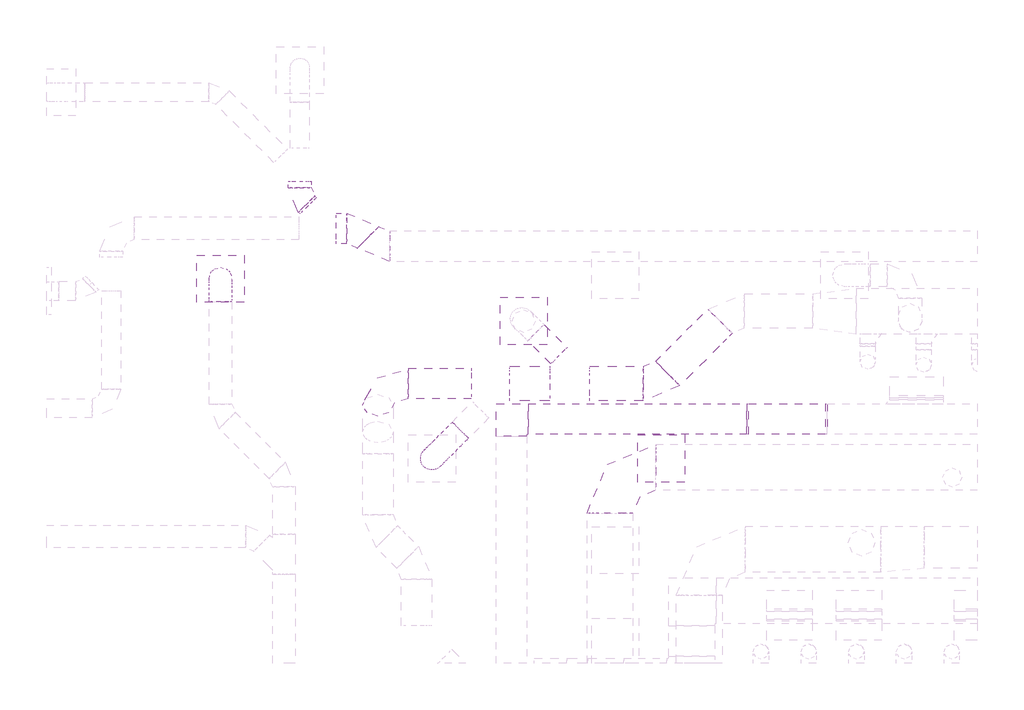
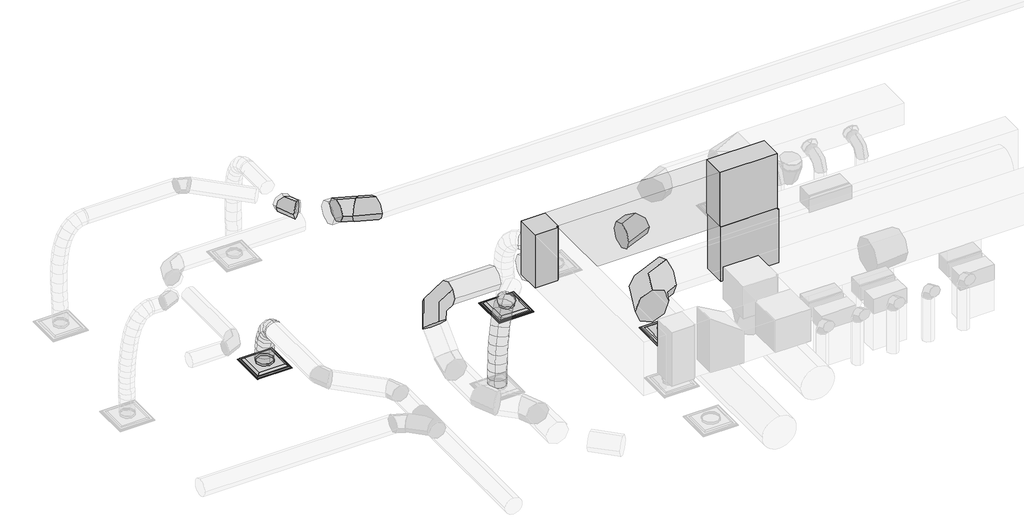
# One storey, part 16 of 33: 11 duct segments, 9 duct fittings, 3 air terminals.
"""IFC4 building model written with IfcOpenShell, lengths in millimetres."""

from ifc_helpers import new_model, si_unit, point, frame, frame_2d, origin, place, context, project, spatial, polyline, circle_curve, ellipse_curve, trimmed, segment, composite_curve, outline, extrude, transform, mapped, element, save
from ifc_brep_helpers import plane_surface, cylinder_surface, advanced_brep
from components import air_terminal_a17ada07, air_terminal_7f3dec8e, air_terminal_6bbe9ee0, rectangular_elbow_mitered_standard_4791c952, rectangular_elbow_mitered_standard_36f4f60f, round_elbow_1_d_28128332, round_elbow_1_d_30de4f45, round_elbow_1_d_8aca8b6e, round_elbow_1_d_29f30982, round_elbow_1_d_6b09a4cd

model = new_model("IFC4")

# Units and contexts
model_context = context("Model", 3, world=origin())
ifc_project = project(units=[si_unit("LENGTHUNIT", "METRE", prefix="MILLI")], contexts=[model_context])

# Site, building, storey
site = spatial("IfcSite", under=ifc_project)
building = spatial("IfcBuilding", under=site)
storey = spatial("IfcBuildingStorey", under=building, Name="T.O. SLAB - 1ST", Elevation=-25.4)

# Air terminals
placement = place(None, origin())
air_terminal_shape = air_terminal_a17ada07(model_context)
element("IfcAirTerminal", 1, ObjectType="Titus-Round_Neck_Supply_Diffuser-PCS_Surface_Mount : PCS AA-12_24x24", at=placement, inside=storey, context=model_context, shape_type="MappedRepresentation", body=[
    mapped(air_terminal_shape, transform((8031.9449834, 30723.8372154, 2717.8), x_axis=(1.0, 0.0, 0.0), y_axis=(0.0, -1.0, 0.0), z_axis=(0.0, 0.0, -1.0))),
])
air_terminal_2_shape = air_terminal_7f3dec8e(model_context)
element("IfcAirTerminal", 2, ObjectType="Titus-Round_Neck_Return_Diffuser-PAR_Surface_Mount : PAR AA-12_24x24 - CRGT", at=placement, inside=storey, context=model_context, shape_type="MappedRepresentation", body=[
    mapped(air_terminal_2_shape, transform((13893.8, 28333.6034288, 2717.8), x_axis=(-1.0, 0.0, 0.0), y_axis=(0.0, 1.0, 0.0), z_axis=(0.0, 0.0, -1.0))),
])
air_terminal_3_shape = air_terminal_6bbe9ee0(model_context)
element("IfcAirTerminal", 3, ObjectType="Titus-Round_Neck_Supply_Diffuser-PCS_Surface_Mount : PCS AA-10_24x24 - 4-WAY", at=placement, inside=storey, context=model_context, shape_type="MappedRepresentation", body=[
    mapped(air_terminal_3_shape, transform((12065.0, 30162.4034288, 2717.8), x_axis=(-1.0, 0.0, 0.0), y_axis=(0.0, 1.0, 0.0), z_axis=(0.0, 0.0, -1.0))),
])

# Duct fittings
rectangular_elbow_mitered_standard_shape = rectangular_elbow_mitered_standard_4791c952(model_context)
element("IfcDuctFitting", 4, ObjectType="Rectangular Elbow - Mitered : Standard", at=placement, inside=storey, context=model_context, shape_type="MappedRepresentation", body=[
    mapped(rectangular_elbow_mitered_standard_shape, transform((11900.1531191, 28859.0191303, 4650.74), x_axis=(-1.0, 0.0, 0.0), y_axis=(0.0, -1.0, 0.0), z_axis=(0.0, 0.0, 1.0))),
])
rectangular_elbow_mitered_standard_2_shape = rectangular_elbow_mitered_standard_36f4f60f(model_context)
element("IfcDuctFitting", 5, ObjectType="Rectangular Elbow - Mitered : Standard", at=placement, inside=storey, context=model_context, shape_type="MappedRepresentation", body=[
    mapped(rectangular_elbow_mitered_standard_2_shape, transform((15568.496851, 28859.0191303, 3583.94), x_axis=(0.0, 0.0, -1.0), y_axis=(1.0, 0.0, 0.0), z_axis=(0.0, -1.0, 0.0))),
])
element("IfcDuctFitting", 6, ObjectType="Rectangular Elbow - Mitered : Standard", at=placement, inside=storey, context=model_context, shape_type="MappedRepresentation", body=[
    mapped(rectangular_elbow_mitered_standard_2_shape, transform((15568.496851, 28859.0191303, 4650.74), x_axis=(0.0, 0.0, 1.0), y_axis=(-1.0, 0.0, 0.0), z_axis=(0.0, -1.0, 0.0))),
])
round_elbow_1_d_shape = round_elbow_1_d_28128332(model_context)
element("IfcDuctFitting", 7, ObjectType="Round Elbow : 1 D", at=placement, inside=storey, context=model_context, shape_type="MappedRepresentation", body=[
    mapped(round_elbow_1_d_shape, transform((9087.7825715, 31807.5588469, 4648.2), x_axis=(0.0, -1.0, 0.0), y_axis=(1.0, 0.0, 0.0), z_axis=(0.0, 0.0, 1.0))),
])
round_elbow_1_d_2_shape = round_elbow_1_d_30de4f45(model_context)
element("IfcDuctFitting", 8, ObjectType="Round Elbow : 1 D", at=placement, inside=storey, context=model_context, shape_type="MappedRepresentation", body=[
    mapped(round_elbow_1_d_2_shape, transform((10115.4886083, 31157.2807736, 4648.2), x_axis=(0.7071067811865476, -0.7071067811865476, 0.0), y_axis=(0.7071067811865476, 0.7071067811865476, 0.0), z_axis=(0.0, 0.0, 1.0))),
])
element("IfcDuctFitting", 9, ObjectType="Round Elbow : 1 D", at=placement, inside=storey, context=model_context, shape_type="MappedRepresentation", body=[
    mapped(round_elbow_1_d_2_shape, transform((9877.425, 31395.3443818, 4648.2), x_axis=(-0.7071067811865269, 0.7071067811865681, 0.0), y_axis=(-0.7071067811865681, -0.7071067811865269, 0.0), z_axis=(0.0, 0.0, 1.0))),
])
round_elbow_1_d_3_shape = round_elbow_1_d_8aca8b6e(model_context)
element("IfcDuctFitting", 10, ObjectType="Round Elbow : 1 D", at=placement, inside=storey, context=model_context, shape_type="MappedRepresentation", body=[
    mapped(round_elbow_1_d_3_shape, transform((10125.515823, 29329.9591007, 4038.6), x_axis=(-1.0, 0.0, 0.0), y_axis=(0.0, -0.7071067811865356, -0.7071067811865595), z_axis=(0.0, -0.7071067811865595, 0.7071067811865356))),
])
round_elbow_1_d_4_shape = round_elbow_1_d_29f30982(model_context)
element("IfcDuctFitting", 11, ObjectType="Round Elbow : 1 D", at=placement, inside=storey, context=model_context, shape_type="MappedRepresentation", body=[
    mapped(round_elbow_1_d_4_shape, transform((13213.9872077, 28217.6045473, 3892.55), x_axis=(-1.0, 0.0, 0.0), y_axis=(0.0, -1.0, 0.0), z_axis=(0.0, 0.0, 1.0))),
])
round_elbow_1_d_5_shape = round_elbow_1_d_6b09a4cd(model_context)
element("IfcDuctFitting", 12, ObjectType="Round Elbow : 1 D", at=placement, inside=storey, context=model_context, shape_type="MappedRepresentation", body=[
    mapped(round_elbow_1_d_5_shape, transform((13847.2543757, 29329.9591007, 4038.6), x_axis=(1.0, 0.0, 0.0), y_axis=(0.0, 1.0, 0.0), z_axis=(0.0, 0.0, 1.0))),
])

# Duct segments
element("IfcDuctSegment", 13, ObjectType="Flex - Round", at=placement, inside=storey, context=model_context, shape_type="AdvancedBrep", body=[
    advanced_brep(
    [(11331.1132618, 28603.3855149, 4038.6), (11223.3501883, 28711.1485883, 3886.2), (11115.5871149, 28818.9116618, 4038.6), (11223.3501883, 28711.1485883, 4191.0), (11313.6532136, 28585.9254667, 4038.6), (11217.0801869, 28704.8785869, 3886.2), (11098.1271664, 28801.4517133, 4038.6), (11194.700193, 28682.498593, 4191.0), (10953.562686, 28225.8399679, 2806.7), (10738.0365391, 28225.8407429, 2806.7), (10738.037314, 28441.3668898, 2806.7), (10953.5634609, 28441.3661148, 2806.7), (11250.9909998, 28523.26337, 4019.9954772), (11180.7840826, 28668.5825504, 3875.423622), (11035.465181, 28738.7898451, 4019.995545), (11105.6720983, 28593.4706647, 4164.5674002), (11182.656094, 28454.9287853, 3967.5513224), (11140.0427799, 28627.8414392, 3844.1563925), (10967.1305016, 28670.4554868, 3967.5515641), (11009.7438157, 28497.5428329, 4090.946494), (11125.2327222, 28397.5058934, 3886.3216709), (11101.9805099, 28589.7794872, 3790.3144666), (10909.7072756, 28613.0327406, 3886.3221186), (10932.9594879, 28420.7591468, 3982.329323), (11077.8450706, 28350.1188349, 3781.3606626), (11065.4443325, 28553.2437672, 3709.3888692), (10862.3196938, 28565.645752, 3781.3612653), (10874.7204319, 28362.5208198, 3853.3330587), (11039.6173106, 28311.8917362, 3657.7224026), (11033.0327324, 28520.8327277, 3604.5615437), (10824.0919618, 28527.4186812, 3657.7230956), (10830.67654, 28318.4776896, 3710.8839545), (11009.6736202, 28281.9487297, 3520.4609858), (11006.2217839, 28494.0223916, 3481.6605676), (10794.1482785, 28497.4756818, 3520.4617112), (10797.6001148, 28285.4020199, 3559.2621294), (10987.1381825, 28259.4139532, 3374.6305072), (10985.3995445, 28473.2007631, 3346.9164733), (10771.6128379, 28474.9409024, 3374.6312137), (10773.3514759, 28261.1540925, 3402.3452476), (10971.1351833, 28243.4115471, 3225.2850648), (10970.3371957, 28458.1389726, 3206.3495019), (10755.6098312, 28458.9384888, 3225.2857017), (10756.4078187, 28244.2110633, 3244.2212647), (10960.7888094, 28233.065653, 3077.4787609), (10960.493655, 28448.2958884, 3065.7265752), (10745.2634483, 28448.5925858, 3077.4792697), (10745.5586028, 28233.3623505, 3089.2314554), (10955.2232482, 28227.500413, 2936.2657029), (10955.168469, 28442.9710097, 2930.6124743), (10739.6978791, 28443.0273377, 2936.2660066), (10739.7526583, 28227.556741, 2941.9192352), (10953.562686, 28225.8399679, 2809.4616667), (10953.5634609, 28441.3661148, 2808.0506708), (10738.037314, 28441.3668898, 2809.4617561), (10738.0365391, 28225.8407429, 2810.8727519)],
    [
        (0, 1, circle_curve(frame((11223.3501883, 28711.1485883, 4038.6), z_axis=(0.7071067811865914, 0.7071067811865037, 0.0), x_axis=(0.7071067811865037, -0.7071067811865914, 0.0)), 152.4)),
        (1, 2, circle_curve(frame((11223.3501883, 28711.1485883, 4038.6), z_axis=(0.7071067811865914, 0.7071067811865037, 0.0), x_axis=(0.7071067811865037, -0.7071067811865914, 0.0)), 152.4)),
        (2, 3, circle_curve(frame((11223.3501883, 28711.1485883, 4038.6), z_axis=(0.7071067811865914, 0.7071067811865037, 0.0), x_axis=(0.7071067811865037, -0.7071067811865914, 0.0)), 152.4)),
        (3, 0, circle_curve(frame((11223.3501883, 28711.1485883, 4038.6), z_axis=(0.7071067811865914, 0.7071067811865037, 0.0), x_axis=(0.7071067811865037, -0.7071067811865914, 0.0)), 152.4)),
        (0, 4),
        (4, 5, ellipse_curve(frame((11205.89019, 28693.68859, 4038.6), z_axis=(0.7033254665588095, 0.7033248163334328, 0.10328354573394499), x_axis=(0.07302936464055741, 0.07303562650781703, -0.9946519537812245)), 153.2194246, 152.4)),
        (5, 1),
        (5, 6, ellipse_curve(frame((11205.89019, 28693.68859, 4038.6), z_axis=(0.7033254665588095, 0.7033248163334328, 0.10328354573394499), x_axis=(0.07302936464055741, 0.07303562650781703, -0.9946519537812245)), 153.2194246, 152.4)),
        (6, 2),
        (6, 7, ellipse_curve(frame((11205.89019, 28693.68859, 4038.6), z_axis=(0.7033254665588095, 0.7033248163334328, 0.10328354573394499), x_axis=(0.07302936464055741, 0.07303562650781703, -0.9946519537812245)), 153.2194246, 152.4)),
        (7, 3),
        (7, 4, ellipse_curve(frame((11205.89019, 28693.68859, 4038.6), z_axis=(0.7033254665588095, 0.7033248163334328, 0.10328354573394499), x_axis=(0.07302936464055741, 0.07303562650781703, -0.9946519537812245)), 153.2194246, 152.4)),
        (8, 9, circle_curve(frame((10845.8, 28333.6034288, 2806.7), z_axis=(0.0, 0.0, -1.0), x_axis=(0.7071042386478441, -0.7071093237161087, 0.0)), 152.4)),
        (9, 10, circle_curve(frame((10845.8, 28333.6034288, 2806.7), z_axis=(0.0, 0.0, -1.0), x_axis=(0.7071042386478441, -0.7071093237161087, 0.0)), 152.4)),
        (10, 11, circle_curve(frame((10845.8, 28333.6034288, 2806.7), z_axis=(0.0, 0.0, -1.0), x_axis=(0.7071042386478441, -0.7071093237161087, 0.0)), 152.4)),
        (11, 8, circle_curve(frame((10845.8, 28333.6034288, 2806.7), z_axis=(0.0, 0.0, -1.0), x_axis=(0.7071042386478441, -0.7071093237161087, 0.0)), 152.4)),
        (4, 12),
        (12, 13, ellipse_curve(frame((11143.2280904, 28631.0266076, 4019.9955111), z_axis=(0.6637346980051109, 0.6637325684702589, 0.3448410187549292), x_axis=(0.24383660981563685, 0.24384223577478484, -0.9386611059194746)), 154.0192602, 152.4)),
        (13, 5),
        (13, 14, ellipse_curve(frame((11143.2280904, 28631.0266076, 4019.9955111), z_axis=(0.6637346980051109, 0.6637325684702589, 0.3448410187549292), x_axis=(0.24383660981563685, 0.24384223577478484, -0.9386611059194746)), 154.0192602, 152.4)),
        (14, 6),
        (14, 15, ellipse_curve(frame((11143.2280904, 28631.0266076, 4019.9955111), z_axis=(0.6637346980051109, 0.6637325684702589, 0.3448410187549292), x_axis=(0.24383660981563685, 0.24384223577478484, -0.9386611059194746)), 154.0192602, 152.4)),
        (15, 7),
        (15, 12, ellipse_curve(frame((11143.2280904, 28631.0266076, 4019.9955111), z_axis=(0.6637346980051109, 0.6637325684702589, 0.3448410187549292), x_axis=(0.24383660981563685, 0.24384223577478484, -0.9386611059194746)), 154.0192602, 152.4)),
        (12, 16),
        (16, 17, ellipse_curve(frame((11074.8932978, 28562.6921361, 3967.5514433), z_axis=(0.5665920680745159, 0.5665884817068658, 0.5982899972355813), x_axis=(0.4230527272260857, 0.42305710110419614, -0.8012796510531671)), 153.9974846, 152.4)),
        (17, 13),
        (17, 18, ellipse_curve(frame((11074.8932978, 28562.6921361, 3967.5514433), z_axis=(0.5665920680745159, 0.5665884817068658, 0.5982899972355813), x_axis=(0.4230527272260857, 0.42305710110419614, -0.8012796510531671)), 153.9974846, 152.4)),
        (18, 14),
        (18, 19, ellipse_curve(frame((11074.8932978, 28562.6921361, 3967.5514433), z_axis=(0.5665920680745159, 0.5665884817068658, 0.5982899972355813), x_axis=(0.4230527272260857, 0.42305710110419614, -0.8012796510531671)), 153.9974846, 152.4)),
        (19, 15),
        (19, 16, ellipse_curve(frame((11074.8932978, 28562.6921361, 3967.5514433), z_axis=(0.5665920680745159, 0.5665884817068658, 0.5982899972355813), x_axis=(0.4230527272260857, 0.42305710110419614, -0.8012796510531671)), 153.9974846, 152.4)),
        (16, 20),
        (20, 21, ellipse_curve(frame((11017.4699989, 28505.269317, 3886.3218948), z_axis=(0.4428380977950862, 0.44283360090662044, 0.7796106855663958), x_axis=(0.5512666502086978, 0.5512693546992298, -0.6262644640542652)), 153.3017339, 152.4)),
        (21, 17),
        (21, 22, ellipse_curve(frame((11017.4699989, 28505.269317, 3886.3218948), z_axis=(0.4428380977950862, 0.44283360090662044, 0.7796106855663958), x_axis=(0.5512666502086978, 0.5512693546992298, -0.6262644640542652)), 153.3017339, 152.4)),
        (22, 18),
        (22, 23, ellipse_curve(frame((11017.4699989, 28505.269317, 3886.3218948), z_axis=(0.4428380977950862, 0.44283360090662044, 0.7796106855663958), x_axis=(0.5512666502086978, 0.5512693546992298, -0.6262644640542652)), 153.3017339, 152.4)),
        (23, 19),
        (23, 20, ellipse_curve(frame((11017.4699989, 28505.269317, 3886.3218948), z_axis=(0.4428380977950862, 0.44283360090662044, 0.7796106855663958), x_axis=(0.5512666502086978, 0.5512693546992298, -0.6262644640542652)), 153.3017339, 152.4)),
        (20, 24),
        (24, 25, ellipse_curve(frame((10970.0823822, 28457.8822935, 3781.3609639), z_axis=(0.3329234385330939, 0.3329185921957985, 0.8822285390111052), x_axis=(0.6238293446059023, 0.623830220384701, -0.4708214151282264)), 152.8649556, 152.4)),
        (25, 21),
        (25, 26, ellipse_curve(frame((10970.0823822, 28457.8822935, 3781.3609639), z_axis=(0.3329234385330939, 0.3329185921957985, 0.8822285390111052), x_axis=(0.6238293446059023, 0.623830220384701, -0.4708214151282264)), 152.8649556, 152.4)),
        (26, 22),
        (26, 27, ellipse_curve(frame((10970.0823822, 28457.8822935, 3781.3609639), z_axis=(0.3329234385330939, 0.3329185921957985, 0.8822285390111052), x_axis=(0.6238293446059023, 0.623830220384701, -0.4708214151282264)), 152.8649556, 152.4)),
        (27, 23),
        (27, 24, ellipse_curve(frame((10970.0823822, 28457.8822935, 3781.3609639), z_axis=(0.3329234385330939, 0.3329185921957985, 0.8822285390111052), x_axis=(0.6238293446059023, 0.623830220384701, -0.4708214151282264)), 152.8649556, 152.4)),
        (24, 28),
        (28, 29, ellipse_curve(frame((10931.8546362, 28419.6552087, 3657.7227491), z_axis=(0.24626688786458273, 0.24626204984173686, 0.9373940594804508), x_axis=(0.6628383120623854, 0.6628370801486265, -0.34827055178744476)), 152.6434121, 152.4)),
        (29, 25),
        (29, 30, ellipse_curve(frame((10931.8546362, 28419.6552087, 3657.7227491), z_axis=(0.24626688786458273, 0.24626204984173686, 0.9373940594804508), x_axis=(0.6628383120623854, 0.6628370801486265, -0.34827055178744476)), 152.6434121, 152.4)),
        (30, 26),
        (30, 31, ellipse_curve(frame((10931.8546362, 28419.6552087, 3657.7227491), z_axis=(0.24626688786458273, 0.24626204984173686, 0.9373940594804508), x_axis=(0.6628383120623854, 0.6628370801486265, -0.34827055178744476)), 152.6434121, 152.4)),
        (31, 27),
        (31, 28, ellipse_curve(frame((10931.8546362, 28419.6552087, 3657.7227491), z_axis=(0.24626688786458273, 0.24626204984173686, 0.9373940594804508), x_axis=(0.6628383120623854, 0.6628370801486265, -0.34827055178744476)), 152.6434121, 152.4)),
        (28, 32),
        (32, 33, ellipse_curve(frame((10901.9109494, 28389.7122057, 3520.4613485), z_axis=(0.17987138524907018, 0.17986678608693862, 0.9671061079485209), x_axis=(0.6838492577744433, 0.6838453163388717, -0.2543733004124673)), 152.5348015, 152.4)),
        (33, 29),
        (33, 34, ellipse_curve(frame((10901.9109494, 28389.7122057, 3520.4613485), z_axis=(0.17987138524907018, 0.17986678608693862, 0.9671061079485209), x_axis=(0.6838492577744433, 0.6838453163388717, -0.2543733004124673)), 152.5348015, 152.4)),
        (34, 30),
        (34, 35, ellipse_curve(frame((10901.9109494, 28389.7122057, 3520.4613485), z_axis=(0.17987138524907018, 0.17986678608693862, 0.9671061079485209), x_axis=(0.6838492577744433, 0.6838453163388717, -0.2543733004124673)), 152.5348015, 152.4)),
        (35, 31),
        (35, 32, ellipse_curve(frame((10901.9109494, 28389.7122057, 3520.4613485), z_axis=(0.17987138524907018, 0.17986678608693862, 0.9671061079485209), x_axis=(0.6838492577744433, 0.6838453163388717, -0.2543733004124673)), 152.5348015, 152.4)),
        (32, 36),
        (36, 37, ellipse_curve(frame((10879.3755102, 28367.1774278, 3374.6308605), z_axis=(0.12852412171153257, 0.12851994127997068, 0.9833433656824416), x_axis=(0.6953326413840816, 0.6953248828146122, -0.1817576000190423)), 152.4799355, 152.4)),
        (37, 33),
        (37, 38, ellipse_curve(frame((10879.3755102, 28367.1774278, 3374.6308605), z_axis=(0.12852412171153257, 0.12851994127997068, 0.9833433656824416), x_axis=(0.6953326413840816, 0.6953248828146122, -0.1817576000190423)), 152.4799355, 152.4)),
        (38, 34),
        (38, 39, ellipse_curve(frame((10879.3755102, 28367.1774278, 3374.6308605), z_axis=(0.12852412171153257, 0.12851994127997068, 0.9833433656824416), x_axis=(0.6953326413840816, 0.6953248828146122, -0.1817576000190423)), 152.4799355, 152.4)),
        (39, 35),
        (39, 36, ellipse_curve(frame((10879.3755102, 28367.1774278, 3374.6308605), z_axis=(0.12852412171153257, 0.12851994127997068, 0.9833433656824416), x_axis=(0.6953326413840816, 0.6953248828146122, -0.1817576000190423)), 152.4799355, 152.4)),
        (36, 40),
        (40, 41, ellipse_curve(frame((10863.3725072, 28351.1750179, 3225.2853833), z_axis=(0.0878312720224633, 0.08782769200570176, 0.9922559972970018), x_axis=(0.7016376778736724, 0.7016242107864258, -0.1242096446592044)), 152.450975, 152.4)),
        (41, 37),
        (41, 42, ellipse_curve(frame((10863.3725072, 28351.1750179, 3225.2853833), z_axis=(0.0878312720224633, 0.08782769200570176, 0.9922559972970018), x_axis=(0.7016376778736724, 0.7016242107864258, -0.1242096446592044)), 152.450975, 152.4)),
        (42, 38),
        (42, 43, ellipse_curve(frame((10863.3725072, 28351.1750179, 3225.2853833), z_axis=(0.0878312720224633, 0.08782769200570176, 0.9922559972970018), x_axis=(0.7016376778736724, 0.7016242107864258, -0.1242096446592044)), 152.450975, 152.4)),
        (43, 39),
        (43, 40, ellipse_curve(frame((10863.3725072, 28351.1750179, 3225.2853833), z_axis=(0.0878312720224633, 0.08782769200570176, 0.9922559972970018), x_axis=(0.7016376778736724, 0.7016242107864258, -0.1242096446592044)), 152.450975, 152.4)),
        (40, 44),
        (44, 45, ellipse_curve(frame((10853.0261289, 28340.8291194, 3077.4790153), z_axis=(0.05451784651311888, 0.054515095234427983, 0.9970235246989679), x_axis=(0.7050132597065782, 0.7049909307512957, -0.07709793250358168)), 152.4352172, 152.4)),
        (45, 41),
        (45, 46, ellipse_curve(frame((10853.0261289, 28340.8291194, 3077.4790153), z_axis=(0.05451784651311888, 0.054515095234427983, 0.9970235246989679), x_axis=(0.7050132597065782, 0.7049909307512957, -0.07709793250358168)), 152.4352172, 152.4)),
        (46, 42),
        (46, 47, ellipse_curve(frame((10853.0261289, 28340.8291194, 3077.4790153), z_axis=(0.05451784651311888, 0.054515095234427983, 0.9970235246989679), x_axis=(0.7050132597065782, 0.7049909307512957, -0.07709793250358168)), 152.4352172, 152.4)),
        (47, 43),
        (47, 44, ellipse_curve(frame((10853.0261289, 28340.8291194, 3077.4790153), z_axis=(0.05451784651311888, 0.054515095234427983, 0.9970235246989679), x_axis=(0.7050132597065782, 0.7049909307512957, -0.07709793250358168)), 152.4352172, 152.4)),
        (44, 48),
        (48, 49, ellipse_curve(frame((10847.4605636, 28335.2638753, 2936.2658548), z_axis=(0.026226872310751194, 0.026225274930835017, 0.9993119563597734), x_axis=(0.7066383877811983, 0.7066021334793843, -0.03708926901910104)), 152.4263113, 152.4)),
        (49, 45),
        (49, 50, ellipse_curve(frame((10847.4605636, 28335.2638753, 2936.2658548), z_axis=(0.026226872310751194, 0.026225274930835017, 0.9993119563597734), x_axis=(0.7066383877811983, 0.7066021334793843, -0.03708926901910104)), 152.4263113, 152.4)),
        (50, 46),
        (50, 51, ellipse_curve(frame((10847.4605636, 28335.2638753, 2936.2658548), z_axis=(0.026226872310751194, 0.026225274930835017, 0.9993119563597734), x_axis=(0.7066383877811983, 0.7066021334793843, -0.03708926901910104)), 152.4263113, 152.4)),
        (51, 47),
        (51, 48, ellipse_curve(frame((10847.4605636, 28335.2638753, 2936.2658548), z_axis=(0.026226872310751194, 0.026225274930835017, 0.9993119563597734), x_axis=(0.7066383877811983, 0.7066021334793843, -0.03708926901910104)), 152.4263113, 152.4)),
        (48, 52),
        (52, 53, ellipse_curve(frame((10845.8, 28333.6034288, 2809.4617114), z_axis=(0.006546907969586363, 0.006546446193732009, 0.9999571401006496), x_axis=(0.707101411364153, 0.7070515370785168, -0.00925839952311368)), 152.4065321, 152.4)),
        (53, 49),
        (53, 54, ellipse_curve(frame((10845.8, 28333.6034288, 2809.4617114), z_axis=(0.006546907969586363, 0.006546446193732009, 0.9999571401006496), x_axis=(0.707101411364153, 0.7070515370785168, -0.00925839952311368)), 152.4065321, 152.4)),
        (54, 50),
        (54, 55, ellipse_curve(frame((10845.8, 28333.6034288, 2809.4617114), z_axis=(0.006546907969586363, 0.006546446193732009, 0.9999571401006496), x_axis=(0.707101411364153, 0.7070515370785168, -0.00925839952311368)), 152.4065321, 152.4)),
        (55, 51),
        (55, 52, ellipse_curve(frame((10845.8, 28333.6034288, 2809.4617114), z_axis=(0.006546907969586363, 0.006546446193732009, 0.9999571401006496), x_axis=(0.707101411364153, 0.7070515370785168, -0.00925839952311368)), 152.4065321, 152.4)),
        (52, 8),
        (11, 53),
        (10, 54),
        (9, 55),
    ],
    [
        plane_surface(frame((11223.3501883, 28711.1485883, 3886.2), z_axis=(0.7071067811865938, 0.7071067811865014, 0.0), x_axis=(0.7071067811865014, -0.7071067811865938, 0.0))),
        cylinder_surface(frame((11223.3501883, 28711.1485883, 4038.6), z_axis=(0.7071067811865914, 0.7071067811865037, 0.0), x_axis=(0.7071067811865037, -0.7071067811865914, 0.0)), 152.4),
        plane_surface(frame((10845.8, 28181.2034288, 2806.7), z_axis=(0.0, 0.0, -1.0), x_axis=(-1.0, 0.0, 0.0))),
        cylinder_surface(frame((11205.89019, 28693.68859, 4038.6), z_axis=(0.6920213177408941, 0.6920200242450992, 0.2054623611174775), x_axis=(0.7071061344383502, -0.7071074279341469, -9.497515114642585e-08)), 152.4),
        cylinder_surface(frame((11143.2280904, 28631.0266076, 4019.9955111), z_axis=(0.6214919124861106, 0.6214889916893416, 0.476968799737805), x_axis=(0.7071053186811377, -0.7071082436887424, -5.18798930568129e-07)), 152.4),
        cylinder_surface(frame((11074.8932978, 28562.6921361, 3967.5514433), z_axis=(0.49993719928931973, 0.49993302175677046, 0.7071985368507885), x_axis=(0.7071046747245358, -0.7071088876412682, -1.198781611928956e-06)), 152.4),
        cylinder_surface(frame((11017.4699989, 28505.269317, 3886.3218948), z_axis=(0.38052937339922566, 0.3805246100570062, 0.8428513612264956), x_axis=(0.7071043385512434, -0.7071092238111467, -1.7906103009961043e-06)), 152.4),
        cylinder_surface(frame((10970.0823822, 28457.8822935, 3781.3609639), z_axis=(0.2832922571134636, 0.28328735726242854, 0.9162389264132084), x_axis=(0.7071041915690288, -0.7071093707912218, -2.18010497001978e-06)), 152.4),
        cylinder_surface(frame((10931.8546362, 28419.6552087, 3657.7227491), z_axis=(0.20845610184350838, 0.2084513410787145, 0.9555595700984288), x_axis=(0.7071041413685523, -0.7071094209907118, -2.3711888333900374e-06)), 152.4),
        cylinder_surface(frame((10901.9109494, 28389.7122057, 3520.4613485), z_axis=(0.1509687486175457, 0.15096431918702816, 0.9769432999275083), x_axis=(0.7071041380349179, -0.707109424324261, -2.38911262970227e-06)), 152.4),
        cylinder_surface(frame((10879.3755102, 28367.1774278, 3374.6308605), z_axis=(0.10594474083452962, 0.10594081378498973, 0.9887124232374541), x_axis=(0.7071041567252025, -0.7071094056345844, -2.246112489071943e-06)), 152.4),
        cylinder_surface(frame((10863.3725072, 28351.1750179, 3225.2853833), z_axis=(0.0696590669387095, 0.06965583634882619, 0.995136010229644), x_axis=(0.7071041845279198, -0.7071093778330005, -1.9320169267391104e-06)), 152.4),
        cylinder_surface(frame((10853.0261289, 28340.8291194, 3077.4790153), z_axis=(0.03935143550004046, 0.039349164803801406, 0.9984503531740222), x_axis=(0.7071042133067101, -0.7071093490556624, -1.4057097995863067e-06)), 152.4),
        cylinder_surface(frame((10847.4605636, 28335.2638753, 2936.2658548), z_axis=(0.013093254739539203, 0.013092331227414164, 0.9998285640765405), x_axis=(0.7071042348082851, -0.7071093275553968, -5.864439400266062e-07)), 152.4),
        cylinder_surface(frame((10845.8, 28333.6034288, 2809.4617114), z_axis=(0.0, 0.0, 1.0), x_axis=(0.7071042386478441, -0.7071093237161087, 0.0)), 152.4),
    ],
    [
        (0, [[1, 2, 3, 4]]),
        (1, [[-1, 5, 6, 7]]),
        (1, [[-2, -7, 8, 9]]),
        (1, [[-3, -9, 10, 11]]),
        (1, [[-4, -11, 12, -5]]),
        (2, [[13, 14, 15, 16]]),
        (3, [[-6, 17, 18, 19]]),
        (3, [[-8, -19, 20, 21]]),
        (3, [[-10, -21, 22, 23]]),
        (3, [[-12, -23, 24, -17]]),
        (4, [[-18, 25, 26, 27]]),
        (4, [[-20, -27, 28, 29]]),
        (4, [[-22, -29, 30, 31]]),
        (4, [[-24, -31, 32, -25]]),
        (5, [[-26, 33, 34, 35]]),
        (5, [[-28, -35, 36, 37]]),
        (5, [[-30, -37, 38, 39]]),
        (5, [[-32, -39, 40, -33]]),
        (6, [[-34, 41, 42, 43]]),
        (6, [[-36, -43, 44, 45]]),
        (6, [[-38, -45, 46, 47]]),
        (6, [[-40, -47, 48, -41]]),
        (7, [[-42, 49, 50, 51]]),
        (7, [[-44, -51, 52, 53]]),
        (7, [[-46, -53, 54, 55]]),
        (7, [[-48, -55, 56, -49]]),
        (8, [[-50, 57, 58, 59]]),
        (8, [[-52, -59, 60, 61]]),
        (8, [[-54, -61, 62, 63]]),
        (8, [[-56, -63, 64, -57]]),
        (9, [[-58, 65, 66, 67]]),
        (9, [[-60, -67, 68, 69]]),
        (9, [[-62, -69, 70, 71]]),
        (9, [[-64, -71, 72, -65]]),
        (10, [[-66, 73, 74, 75]]),
        (10, [[-68, -75, 76, 77]]),
        (10, [[-70, -77, 78, 79]]),
        (10, [[-72, -79, 80, -73]]),
        (11, [[-74, 81, 82, 83]]),
        (11, [[-76, -83, 84, 85]]),
        (11, [[-78, -85, 86, 87]]),
        (11, [[-80, -87, 88, -81]]),
        (12, [[-82, 89, 90, 91]]),
        (12, [[-84, -91, 92, 93]]),
        (12, [[-86, -93, 94, 95]]),
        (12, [[-88, -95, 96, -89]]),
        (13, [[-90, 97, 98, 99]]),
        (13, [[-92, -99, 100, 101]]),
        (13, [[-94, -101, 102, 103]]),
        (13, [[-96, -103, 104, -97]]),
        (14, [[-98, 105, -16, 106]]),
        (14, [[-100, -106, -15, 107]]),
        (14, [[-102, -107, -14, 108]]),
        (14, [[-104, -108, -13, -105]]),
    ],
),
])
element("IfcDuctSegment", 14, ObjectType="Flex - Round", at=placement, inside=storey, context=model_context, shape_type="AdvancedBrep", body=[
    advanced_brep(
    [(7879.5449834, 30419.0372154, 3530.6), (8031.9449834, 30419.0372154, 3378.2), (8184.3449834, 30419.0372154, 3530.6), (8031.9449834, 30419.0372154, 3683.0), (7879.5449834, 30453.3012719, 3530.6), (8031.9449834, 30425.5185602, 3378.2), (8184.3449834, 30453.3012719, 3530.6), (8031.9449834, 30481.0839836, 3683.0), (7879.5449834, 30723.8372154, 2806.7), (8031.9449834, 30876.2372154, 2806.7), (8184.3449834, 30723.8372154, 2806.7), (8031.9449834, 30571.4372154, 2806.7), (7879.5449834, 30507.3042651, 3510.2335183), (8031.9449834, 30430.8975283, 3376.1713966), (8184.3449834, 30507.3042651, 3510.2335183), (8031.9449834, 30583.7110019, 3644.2956399), (7879.5449834, 30577.1163497, 3454.3086698), (8031.9449834, 30462.1835747, 3351.1088674), (8184.3449834, 30577.1163497, 3454.3086698), (8031.9449834, 30692.0491246, 3557.5084721), (7879.5449834, 30630.5342303, 3370.5873496), (8031.9449834, 30493.5157628, 3302.0022365), (8184.3449834, 30630.5342303, 3370.5873496), (8031.9449834, 30767.5526978, 3439.1724626), (7879.5449834, 30669.6186681, 3266.8314527), (8031.9449834, 30523.4194901, 3222.6180053), (8184.3449834, 30669.6186681, 3266.8314527), (8031.9449834, 30815.8178461, 3311.0449001), (7879.5449834, 30696.4304243, 3150.8028743), (8031.9449834, 30546.3940561, 3123.1949681), (8184.3449834, 30696.4304243, 3150.8028743), (8031.9449834, 30846.4667925, 3178.4107804), (7879.5449834, 30713.0302601, 3030.2635093), (8031.9449834, 30561.3797882, 3014.3763843), (8184.3449834, 30713.0302601, 3030.2635093), (8031.9449834, 30864.6807321, 3046.1506343), (7879.5449834, 30721.4789368, 2912.9752529), (8031.9449834, 30569.2045093, 2905.750153), (8184.3449834, 30721.4789368, 2912.9752529), (8031.9449834, 30873.7533642, 2920.2003527), (7879.5449834, 30723.8372154, 2810.0809678), (8031.9449834, 30571.4372154, 2808.3347363), (8184.3449834, 30723.8372154, 2810.0809678), (8031.9449834, 30876.2372154, 2811.8271992)],
    [
        (0, 1, circle_curve(frame((8031.9449834, 30419.0372154, 3530.6), z_axis=(0.0, -1.0, 0.0), x_axis=(-1.0, 0.0, 0.0)), 152.4)),
        (1, 2, circle_curve(frame((8031.9449834, 30419.0372154, 3530.6), z_axis=(0.0, -1.0, 0.0), x_axis=(-1.0, 0.0, 0.0)), 152.4)),
        (2, 3, circle_curve(frame((8031.9449834, 30419.0372154, 3530.6), z_axis=(0.0, -1.0, 0.0), x_axis=(-1.0, 0.0, 0.0)), 152.4)),
        (3, 0, circle_curve(frame((8031.9449834, 30419.0372154, 3530.6), z_axis=(0.0, -1.0, 0.0), x_axis=(-1.0, 0.0, 0.0)), 152.4)),
        (0, 4),
        (4, 5, ellipse_curve(frame((8031.9449834, 30453.3012719, 3530.6), z_axis=(0.0, -0.9837861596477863, 0.17934545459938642), x_axis=(0.0, -0.17934545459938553, -0.9837861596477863)), 154.9117138, 152.4)),
        (5, 1),
        (5, 6, ellipse_curve(frame((8031.9449834, 30453.3012719, 3530.6), z_axis=(0.0, -0.9837861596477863, 0.17934545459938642), x_axis=(0.0, -0.17934545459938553, -0.9837861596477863)), 154.9117138, 152.4)),
        (6, 2),
        (6, 7, ellipse_curve(frame((8031.9449834, 30453.3012719, 3530.6), z_axis=(0.0, -0.9837861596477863, 0.17934545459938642), x_axis=(0.0, -0.17934545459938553, -0.9837861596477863)), 154.9117138, 152.4)),
        (7, 3),
        (7, 4, ellipse_curve(frame((8031.9449834, 30453.3012719, 3530.6), z_axis=(0.0, -0.9837861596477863, 0.17934545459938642), x_axis=(0.0, -0.17934545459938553, -0.9837861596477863)), 154.9117138, 152.4)),
        (8, 9, circle_curve(frame((8031.9449834, 30723.8372154, 2806.7), z_axis=(0.0, 0.0, -1.0), x_axis=(-1.0, 0.0, 0.0)), 152.4)),
        (9, 10, circle_curve(frame((8031.9449834, 30723.8372154, 2806.7), z_axis=(0.0, 0.0, -1.0), x_axis=(-1.0, 0.0, 0.0)), 152.4)),
        (10, 11, circle_curve(frame((8031.9449834, 30723.8372154, 2806.7), z_axis=(0.0, 0.0, -1.0), x_axis=(-1.0, 0.0, 0.0)), 152.4)),
        (11, 8, circle_curve(frame((8031.9449834, 30723.8372154, 2806.7), z_axis=(0.0, 0.0, -1.0), x_axis=(-1.0, 0.0, 0.0)), 152.4)),
        (4, 12),
        (12, 13, ellipse_curve(frame((8031.9449834, 30507.3042651, 3510.2335183), z_axis=(0.0, -0.8688014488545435, 0.4951606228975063), x_axis=(0.0, -0.4951606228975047, -0.8688014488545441)), 154.3069729, 152.4)),
        (13, 5),
        (13, 14, ellipse_curve(frame((8031.9449834, 30507.3042651, 3510.2335183), z_axis=(0.0, -0.8688014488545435, 0.4951606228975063), x_axis=(0.0, -0.4951606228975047, -0.8688014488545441)), 154.3069729, 152.4)),
        (14, 6),
        (14, 15, ellipse_curve(frame((8031.9449834, 30507.3042651, 3510.2335183), z_axis=(0.0, -0.8688014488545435, 0.4951606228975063), x_axis=(0.0, -0.4951606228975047, -0.8688014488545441)), 154.3069729, 152.4)),
        (15, 7),
        (15, 12, ellipse_curve(frame((8031.9449834, 30507.3042651, 3510.2335183), z_axis=(0.0, -0.8688014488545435, 0.4951606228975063), x_axis=(0.0, -0.4951606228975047, -0.8688014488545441)), 154.3069729, 152.4)),
        (12, 16),
        (16, 17, ellipse_curve(frame((8031.9449834, 30577.1163497, 3454.3086698), z_axis=(0.0, -0.6681069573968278, 0.7440652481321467), x_axis=(0.0, -0.744065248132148, -0.6681069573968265)), 154.4659897, 152.4)),
        (17, 13),
        (17, 18, ellipse_curve(frame((8031.9449834, 30577.1163497, 3454.3086698), z_axis=(0.0, -0.6681069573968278, 0.7440652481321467), x_axis=(0.0, -0.744065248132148, -0.6681069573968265)), 154.4659897, 152.4)),
        (18, 14),
        (18, 19, ellipse_curve(frame((8031.9449834, 30577.1163497, 3454.3086698), z_axis=(0.0, -0.6681069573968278, 0.7440652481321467), x_axis=(0.0, -0.744065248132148, -0.6681069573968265)), 154.4659897, 152.4)),
        (19, 15),
        (19, 16, ellipse_curve(frame((8031.9449834, 30577.1163497, 3454.3086698), z_axis=(0.0, -0.6681069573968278, 0.7440652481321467), x_axis=(0.0, -0.744065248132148, -0.6681069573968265)), 154.4659897, 152.4)),
        (16, 20),
        (20, 21, ellipse_curve(frame((8031.9449834, 30630.5342303, 3370.5873496), z_axis=(0.0, -0.4476097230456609, 0.8942290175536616), x_axis=(0.0, -0.8942290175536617, -0.447609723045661)), 153.2252531, 152.4)),
        (21, 17),
        (21, 22, ellipse_curve(frame((8031.9449834, 30630.5342303, 3370.5873496), z_axis=(0.0, -0.4476097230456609, 0.8942290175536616), x_axis=(0.0, -0.8942290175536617, -0.447609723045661)), 153.2252531, 152.4)),
        (22, 18),
        (22, 23, ellipse_curve(frame((8031.9449834, 30630.5342303, 3370.5873496), z_axis=(0.0, -0.4476097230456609, 0.8942290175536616), x_axis=(0.0, -0.8942290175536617, -0.447609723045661)), 153.2252531, 152.4)),
        (23, 19),
        (23, 20, ellipse_curve(frame((8031.9449834, 30630.5342303, 3370.5873496), z_axis=(0.0, -0.4476097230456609, 0.8942290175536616), x_axis=(0.0, -0.8942290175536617, -0.447609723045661)), 153.2252531, 152.4)),
        (20, 24),
        (24, 25, ellipse_curve(frame((8031.9449834, 30669.6186681, 3266.8314527), z_axis=(0.0, -0.28947165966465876, 0.9571865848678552), x_axis=(0.0, -0.9571865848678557, -0.2894716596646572)), 152.7384319, 152.4)),
        (25, 21),
        (25, 26, ellipse_curve(frame((8031.9449834, 30669.6186681, 3266.8314527), z_axis=(0.0, -0.28947165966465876, 0.9571865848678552), x_axis=(0.0, -0.9571865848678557, -0.2894716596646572)), 152.7384319, 152.4)),
        (26, 22),
        (26, 27, ellipse_curve(frame((8031.9449834, 30669.6186681, 3266.8314527), z_axis=(0.0, -0.28947165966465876, 0.9571865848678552), x_axis=(0.0, -0.9571865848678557, -0.2894716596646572)), 152.7384319, 152.4)),
        (27, 23),
        (27, 24, ellipse_curve(frame((8031.9449834, 30669.6186681, 3266.8314527), z_axis=(0.0, -0.28947165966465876, 0.9571865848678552), x_axis=(0.0, -0.9571865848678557, -0.2894716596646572)), 152.7384319, 152.4)),
        (24, 28),
        (28, 29, ellipse_curve(frame((8031.9449834, 30696.4304243, 3150.8028743), z_axis=(0.0, -0.18096987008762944, 0.9834886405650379), x_axis=(0.0, -0.9834886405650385, -0.18096987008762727)), 152.555263, 152.4)),
        (29, 25),
        (29, 30, ellipse_curve(frame((8031.9449834, 30696.4304243, 3150.8028743), z_axis=(0.0, -0.18096987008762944, 0.9834886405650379), x_axis=(0.0, -0.9834886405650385, -0.18096987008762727)), 152.555263, 152.4)),
        (30, 26),
        (30, 31, ellipse_curve(frame((8031.9449834, 30696.4304243, 3150.8028743), z_axis=(0.0, -0.18096987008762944, 0.9834886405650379), x_axis=(0.0, -0.9834886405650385, -0.18096987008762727)), 152.555263, 152.4)),
        (31, 27),
        (31, 28, ellipse_curve(frame((8031.9449834, 30696.4304243, 3150.8028743), z_axis=(0.0, -0.18096987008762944, 0.9834886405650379), x_axis=(0.0, -0.9834886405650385, -0.18096987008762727)), 152.555263, 152.4)),
        (28, 32),
        (32, 33, ellipse_curve(frame((8031.9449834, 30713.0302601, 3030.2635093), z_axis=(0.0, -0.10419127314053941, 0.9945572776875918), x_axis=(0.0, -0.9945572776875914, -0.10419127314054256)), 152.4803803, 152.4)),
        (33, 29),
        (33, 34, ellipse_curve(frame((8031.9449834, 30713.0302601, 3030.2635093), z_axis=(0.0, -0.10419127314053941, 0.9945572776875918), x_axis=(0.0, -0.9945572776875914, -0.10419127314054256)), 152.4803803, 152.4)),
        (34, 30),
        (34, 35, ellipse_curve(frame((8031.9449834, 30713.0302601, 3030.2635093), z_axis=(0.0, -0.10419127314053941, 0.9945572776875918), x_axis=(0.0, -0.9945572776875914, -0.10419127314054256)), 152.4803803, 152.4)),
        (35, 31),
        (35, 32, ellipse_curve(frame((8031.9449834, 30713.0302601, 3030.2635093), z_axis=(0.0, -0.10419127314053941, 0.9945572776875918), x_axis=(0.0, -0.9945572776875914, -0.10419127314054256)), 152.4803803, 152.4)),
        (32, 36),
        (36, 37, ellipse_curve(frame((8031.9449834, 30721.4789368, 2912.9752529), z_axis=(0.0, -0.0473945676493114, 0.9988762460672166), x_axis=(0.0, -0.9988762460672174, -0.04739456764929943)), 152.4457389, 152.4)),
        (37, 33),
        (37, 38, ellipse_curve(frame((8031.9449834, 30721.4789368, 2912.9752529), z_axis=(0.0, -0.0473945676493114, 0.9988762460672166), x_axis=(0.0, -0.9988762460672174, -0.04739456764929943)), 152.4457389, 152.4)),
        (38, 34),
        (38, 39, ellipse_curve(frame((8031.9449834, 30721.4789368, 2912.9752529), z_axis=(0.0, -0.0473945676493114, 0.9988762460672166), x_axis=(0.0, -0.9988762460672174, -0.04739456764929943)), 152.4457389, 152.4)),
        (39, 35),
        (39, 36, ellipse_curve(frame((8031.9449834, 30721.4789368, 2912.9752529), z_axis=(0.0, -0.0473945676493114, 0.9988762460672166), x_axis=(0.0, -0.9988762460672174, -0.04739456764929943)), 152.4457389, 152.4)),
        (36, 40),
        (40, 41, ellipse_curve(frame((8031.9449834, 30723.8372154, 2810.0809678), z_axis=(0.0, -0.011457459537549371, 0.9999343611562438), x_axis=(0.0, -0.999934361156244, -0.01145745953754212)), 152.410004, 152.4)),
        (41, 37),
        (41, 42, ellipse_curve(frame((8031.9449834, 30723.8372154, 2810.0809678), z_axis=(0.0, -0.011457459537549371, 0.9999343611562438), x_axis=(0.0, -0.999934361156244, -0.01145745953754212)), 152.410004, 152.4)),
        (42, 38),
        (42, 43, ellipse_curve(frame((8031.9449834, 30723.8372154, 2810.0809678), z_axis=(0.0, -0.011457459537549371, 0.9999343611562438), x_axis=(0.0, -0.999934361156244, -0.01145745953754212)), 152.410004, 152.4)),
        (43, 39),
        (43, 40, ellipse_curve(frame((8031.9449834, 30723.8372154, 2810.0809678), z_axis=(0.0, -0.011457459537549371, 0.9999343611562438), x_axis=(0.0, -0.999934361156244, -0.01145745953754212)), 152.410004, 152.4)),
        (40, 8),
        (11, 41),
        (10, 42),
        (9, 43),
    ],
    [
        plane_surface(frame((7879.5449834, 30419.0372154, 3530.6), z_axis=(0.0, -1.0, 0.0), x_axis=(0.0, 0.0, 1.0))),
        cylinder_surface(frame((8031.9449834, 30419.0372154, 3530.6), z_axis=(0.0, -1.0, 0.0), x_axis=(-1.0, 0.0, 0.0)), 152.4),
        plane_surface(frame((8031.9449834, 30571.4372154, 2806.7), z_axis=(0.0, 0.0, -1.0), x_axis=(-1.0, 0.0, 0.0))),
        cylinder_surface(frame((8031.9449834, 30453.3012719, 3530.6), z_axis=(0.0, -0.935670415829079, 0.3528751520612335), x_axis=(-1.0, 0.0, 0.0)), 152.4),
        cylinder_surface(frame((8031.9449834, 30507.3042651, 3510.2335183), z_axis=(0.0, -0.7804586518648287, 0.625207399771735), x_axis=(-1.0, 0.0, 0.0)), 152.4),
        cylinder_surface(frame((8031.9449834, 30577.1163497, 3454.3086698), z_axis=(0.0, -0.5378833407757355, 0.8430192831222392), x_axis=(-1.0, 0.0, 0.0)), 152.4),
        cylinder_surface(frame((8031.9449834, 30630.5342303, 3370.5873496), z_axis=(0.0, -0.3525145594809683, 0.9358063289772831), x_axis=(-1.0, 0.0, 0.0)), 152.4),
        cylinder_surface(frame((8031.9449834, 30669.6186681, 3266.8314527), z_axis=(0.0, -0.22514595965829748, 0.9743250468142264), x_axis=(-1.0, 0.0, 0.0)), 152.4),
        cylinder_surface(frame((8031.9449834, 30696.4304243, 3150.8028743), z_axis=(0.0, -0.13642541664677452, 0.9906503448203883), x_axis=(-1.0, 0.0, 0.0)), 152.4),
        cylinder_surface(frame((8031.9449834, 30713.0302601, 3030.2635093), z_axis=(0.0, -0.07184728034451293, 0.9974156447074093), x_axis=(-1.0, 0.0, 0.0)), 152.4),
        cylinder_surface(frame((8031.9449834, 30721.4789368, 2912.9752529), z_axis=(0.0, -0.02291341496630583, 0.9997374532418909), x_axis=(-1.0, 0.0, 0.0)), 152.4),
        cylinder_surface(frame((8031.9449834, 30723.8372154, 2810.0809678), z_axis=(0.0, 0.0, 1.0), x_axis=(-1.0, 0.0, 0.0)), 152.4),
    ],
    [
        (0, [[1, 2, 3, 4]]),
        (1, [[-1, 5, 6, 7]]),
        (1, [[-2, -7, 8, 9]]),
        (1, [[-3, -9, 10, 11]]),
        (1, [[-4, -11, 12, -5]]),
        (2, [[13, 14, 15, 16]]),
        (3, [[-6, 17, 18, 19]]),
        (3, [[-8, -19, 20, 21]]),
        (3, [[-10, -21, 22, 23]]),
        (3, [[-12, -23, 24, -17]]),
        (4, [[-18, 25, 26, 27]]),
        (4, [[-20, -27, 28, 29]]),
        (4, [[-22, -29, 30, 31]]),
        (4, [[-24, -31, 32, -25]]),
        (5, [[-26, 33, 34, 35]]),
        (5, [[-28, -35, 36, 37]]),
        (5, [[-30, -37, 38, 39]]),
        (5, [[-32, -39, 40, -33]]),
        (6, [[-34, 41, 42, 43]]),
        (6, [[-36, -43, 44, 45]]),
        (6, [[-38, -45, 46, 47]]),
        (6, [[-40, -47, 48, -41]]),
        (7, [[-42, 49, 50, 51]]),
        (7, [[-44, -51, 52, 53]]),
        (7, [[-46, -53, 54, 55]]),
        (7, [[-48, -55, 56, -49]]),
        (8, [[-50, 57, 58, 59]]),
        (8, [[-52, -59, 60, 61]]),
        (8, [[-54, -61, 62, 63]]),
        (8, [[-56, -63, 64, -57]]),
        (9, [[-58, 65, 66, 67]]),
        (9, [[-60, -67, 68, 69]]),
        (9, [[-62, -69, 70, 71]]),
        (9, [[-64, -71, 72, -65]]),
        (10, [[-66, 73, 74, 75]]),
        (10, [[-68, -75, 76, 77]]),
        (10, [[-70, -77, 78, 79]]),
        (10, [[-72, -79, 80, -73]]),
        (11, [[-74, 81, -16, 82]]),
        (11, [[-76, -82, -15, 83]]),
        (11, [[-78, -83, -14, 84]]),
        (11, [[-80, -84, -13, -81]]),
    ],
),
])
element("IfcDuctSegment", 15, ObjectType="Mitered Elbows / Taps", at=placement, inside=storey, context=model_context, shape_type="SweptSolid", body=[
    extrude(outline(polyline([(15035.096851, 29062.2191303), (15035.096851, 28655.8191303), (12128.7531191, 28655.8191303), (12128.7531191, 29062.2191303), (15035.096851, 29062.2191303)])), frame((0.0, 0.0, 4142.74), z_axis=(0.0, 0.0, 1.0), x_axis=(1.0, 0.0, 0.0)), (0.0, 0.0, 1.0), 1016.0),
])
element("IfcDuctSegment", 16, ObjectType="Taps", at=placement, inside=storey, context=model_context, shape_type="SweptSolid", body=[
    extrude(outline(composite_curve([segment(trimmed(circle_curve(frame_2d((0.0, -228.6)), 228.6), [point((-228.6, -228.6))], [point((0.0, 0.0))], False, "CARTESIAN"), True, "CONTINUOUS"), segment(trimmed(circle_curve(frame_2d((0.0, -228.6)), 228.6), [point((0.0, 0.0))], [point((228.6, -228.6))], False, "CARTESIAN"), True, "CONTINUOUS"), segment(trimmed(circle_curve(frame_2d((0.0, -228.6)), 228.6), [point((228.6, -228.6))], [point((0.0, -457.2))], False, "CARTESIAN"), True, "CONTINUOUS"), segment(trimmed(circle_curve(frame_2d((0.0, -228.6)), 228.6), [point((0.0, -457.2))], [point((-228.6, -228.6))], False, "CARTESIAN"), True, "CONTINUOUS")], self_intersect=False)), frame((13981.1651554, 29463.8698804, 3810.0), z_axis=(0.7071067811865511, 0.707106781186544, 0.0), x_axis=(0.707106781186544, -0.7071067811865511, 0.0)), (0.0, 0.0, 1.0), 985.2263155),
])
element("IfcDuctSegment", 17, ObjectType="Taps", at=placement, inside=storey, context=model_context, shape_type="SweptSolid", body=[
    extrude(outline(composite_curve([segment(trimmed(circle_curve(frame_2d((29329.9591007, 4038.6)), 228.6), [point((29558.5591007, 4038.6))], [point((29329.9591007, 3810.0))], False, "CARTESIAN"), True, "CONTINUOUS"), segment(trimmed(circle_curve(frame_2d((29329.9591007, 4038.6)), 228.6), [point((29329.9591007, 3810.0))], [point((29101.3591007, 4038.6))], False, "CARTESIAN"), True, "CONTINUOUS"), segment(trimmed(circle_curve(frame_2d((29329.9591007, 4038.6)), 228.6), [point((29101.3591007, 4038.6))], [point((29329.9591007, 4267.2))], False, "CARTESIAN"), True, "CONTINUOUS"), segment(trimmed(circle_curve(frame_2d((29329.9591007, 4038.6)), 228.6), [point((29329.9591007, 4267.2))], [point((29558.5591007, 4038.6))], False, "CARTESIAN"), True, "CONTINUOUS")], self_intersect=False)), frame((11882.4055784, 0.0, 0.0), z_axis=(1.0, 0.0, 0.0), x_axis=(0.0, 1.0, 0.0)), (0.0, 0.0, 1.0), 529.0344197),
])
element("IfcDuctSegment", 18, ObjectType="Taps", at=placement, inside=storey, context=model_context, shape_type="SweptSolid", body=[
    extrude(outline(composite_curve([segment(trimmed(circle_curve(frame_2d((29329.9591007, 4038.6)), 228.6), [point((29558.5591007, 4038.6))], [point((29329.9591007, 3810.0))], False, "CARTESIAN"), True, "CONTINUOUS"), segment(trimmed(circle_curve(frame_2d((29329.9591007, 4038.6)), 228.6), [point((29329.9591007, 3810.0))], [point((29101.3591007, 4038.6))], False, "CARTESIAN"), True, "CONTINUOUS"), segment(trimmed(circle_curve(frame_2d((29329.9591007, 4038.6)), 228.6), [point((29101.3591007, 4038.6))], [point((29329.9591007, 4267.2))], False, "CARTESIAN"), True, "CONTINUOUS"), segment(trimmed(circle_curve(frame_2d((29329.9591007, 4038.6)), 228.6), [point((29329.9591007, 4267.2))], [point((29558.5591007, 4038.6))], False, "CARTESIAN"), True, "CONTINUOUS")], self_intersect=False)), frame((12944.092292, 0.0, 0.0), z_axis=(1.0, 0.0, 0.0), x_axis=(0.0, 1.0, 0.0)), (0.0, 0.0, 1.0), 713.783643),
])
element("IfcDuctSegment", 19, ObjectType="Taps", at=placement, inside=storey, context=model_context, shape_type="SweptSolid", body=[
    extrude(outline(composite_curve([segment(trimmed(circle_curve(frame_2d((29329.9591007, 4038.6)), 203.2), [point((29533.1591007, 4038.6))], [point((29329.9591007, 3835.4))], False, "CARTESIAN"), True, "CONTINUOUS"), segment(trimmed(circle_curve(frame_2d((29329.9591007, 4038.6)), 203.2), [point((29329.9591007, 3835.4))], [point((29126.7591007, 4038.6))], False, "CARTESIAN"), True, "CONTINUOUS"), segment(trimmed(circle_curve(frame_2d((29329.9591007, 4038.6)), 203.2), [point((29126.7591007, 4038.6))], [point((29329.9591007, 4241.8))], False, "CARTESIAN"), True, "CONTINUOUS"), segment(trimmed(circle_curve(frame_2d((29329.9591007, 4038.6)), 203.2), [point((29329.9591007, 4241.8))], [point((29533.1591007, 4038.6))], False, "CARTESIAN"), True, "CONTINUOUS")], self_intersect=False)), frame((10531.915823, 0.0, 0.0), z_axis=(1.0, 0.0, 0.0), x_axis=(0.0, 1.0, 0.0)), (0.0, 0.0, 1.0), 838.2),
])
element("IfcDuctSegment", 20, ObjectType="Taps", at=placement, inside=storey, context=model_context, shape_type="SweptSolid", body=[
    extrude(outline(composite_curve([segment(trimmed(circle_curve(frame_2d((0.0, 152.4)), 152.4), [point((152.4000001, 152.4))], [point((0.0, 0.0))], False, "CARTESIAN"), True, "CONTINUOUS"), segment(trimmed(circle_curve(frame_2d((0.0, 152.4)), 152.4), [point((0.0, 0.0))], [point((-152.3999999, 152.4))], False, "CARTESIAN"), True, "CONTINUOUS"), segment(trimmed(circle_curve(frame_2d((0.0, 152.4)), 152.4), [point((-152.3999999, 152.4))], [point((0.0, 304.8))], False, "CARTESIAN"), True, "CONTINUOUS"), segment(trimmed(circle_curve(frame_2d((0.0, 152.4)), 152.4), [point((0.0, 304.8))], [point((152.4000001, 152.4))], False, "CARTESIAN"), True, "CONTINUOUS")], self_intersect=False)), frame((12534.0820471, 29702.2431986, 4191.0), z_axis=(-0.7071067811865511, 0.707106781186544, 0.0), x_axis=(0.707106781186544, 0.7071067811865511, 0.0)), (0.0, 0.0, 1.0), 431.8),
])
element("IfcDuctSegment", 21, ObjectType="Taps", at=placement, inside=storey, context=model_context, shape_type="SweptSolid", body=[
    extrude(outline(composite_curve([segment(trimmed(circle_curve(frame_2d((31395.3443818, 4648.2)), 203.2), [point((31598.5443818, 4648.2))], [point((31395.3443818, 4445.0))], False, "CARTESIAN"), True, "CONTINUOUS"), segment(trimmed(circle_curve(frame_2d((31395.3443818, 4648.2)), 203.2), [point((31395.3443818, 4445.0))], [point((31192.1443818, 4648.2))], False, "CARTESIAN"), True, "CONTINUOUS"), segment(trimmed(circle_curve(frame_2d((31395.3443818, 4648.2)), 203.2), [point((31192.1443818, 4648.2))], [point((31395.3443818, 4851.4))], False, "CARTESIAN"), True, "CONTINUOUS"), segment(trimmed(circle_curve(frame_2d((31395.3443818, 4648.2)), 203.2), [point((31395.3443818, 4851.4))], [point((31598.5443818, 4648.2))], False, "CARTESIAN"), True, "CONTINUOUS")], self_intersect=False)), frame((9568.3648119, 0.0, 0.0), z_axis=(1.0, 0.0, 0.0), x_axis=(0.0, 1.0, 0.0)), (0.0, 0.0, 1.0), 140.7237963),
])
element("IfcDuctSegment", 22, ObjectType="Taps", at=placement, inside=storey, context=model_context, shape_type="SweptSolid", body=[
    extrude(outline(composite_curve([segment(trimmed(circle_curve(frame_2d((0.0, 152.4)), 152.4), [point((152.4000001, 152.4))], [point((0.0, 0.0))], False, "CARTESIAN"), True, "CONTINUOUS"), segment(trimmed(circle_curve(frame_2d((0.0, 152.4)), 152.4), [point((0.0, 0.0))], [point((-152.3999999, 152.4))], False, "CARTESIAN"), True, "CONTINUOUS"), segment(trimmed(circle_curve(frame_2d((0.0, 152.4)), 152.4), [point((-152.3999999, 152.4))], [point((0.0, 304.8))], False, "CARTESIAN"), True, "CONTINUOUS"), segment(trimmed(circle_curve(frame_2d((0.0, 152.4)), 152.4), [point((0.0, 304.8))], [point((152.4000001, 152.4))], False, "CARTESIAN"), True, "CONTINUOUS")], self_intersect=False)), frame((9198.6713103, 31696.6701081, 4800.6), z_axis=(-0.707106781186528, 0.7071067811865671, 0.0), x_axis=(0.7071067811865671, 0.707106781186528, 0.0)), (0.0, 0.0, 1.0), 30.5680645),
])
element("IfcDuctSegment", 23, ObjectType="Taps", at=placement, inside=storey, context=model_context, shape_type="SweptSolid", body=[
    extrude(outline(composite_curve([segment(trimmed(circle_curve(frame_2d((4648.2, 9087.7825715)), 152.4), [point((4648.2, 9240.1825715))], [point((4800.6, 9087.7825715))], False, "CARTESIAN"), True, "CONTINUOUS"), segment(trimmed(circle_curve(frame_2d((4648.2, 9087.7825715)), 152.4), [point((4800.6, 9087.7825715))], [point((4648.2, 8935.3825715))], False, "CARTESIAN"), True, "CONTINUOUS"), segment(trimmed(circle_curve(frame_2d((4648.2, 9087.7825715)), 152.4), [point((4648.2, 8935.3825715))], [point((4495.8, 9087.7825715))], False, "CARTESIAN"), True, "CONTINUOUS"), segment(trimmed(circle_curve(frame_2d((4648.2, 9087.7825715)), 152.4), [point((4495.8, 9087.7825715))], [point((4648.2, 9240.1825715))], False, "CARTESIAN"), True, "CONTINUOUS")], self_intersect=False)), frame((0.0, 31933.8111407, 0.0), z_axis=(0.0, 1.0, 0.0), x_axis=(0.0, 0.0, 1.0)), (0.0, 0.0, 1.0), 89.2720559),
])

save(model, "model.ifc")
